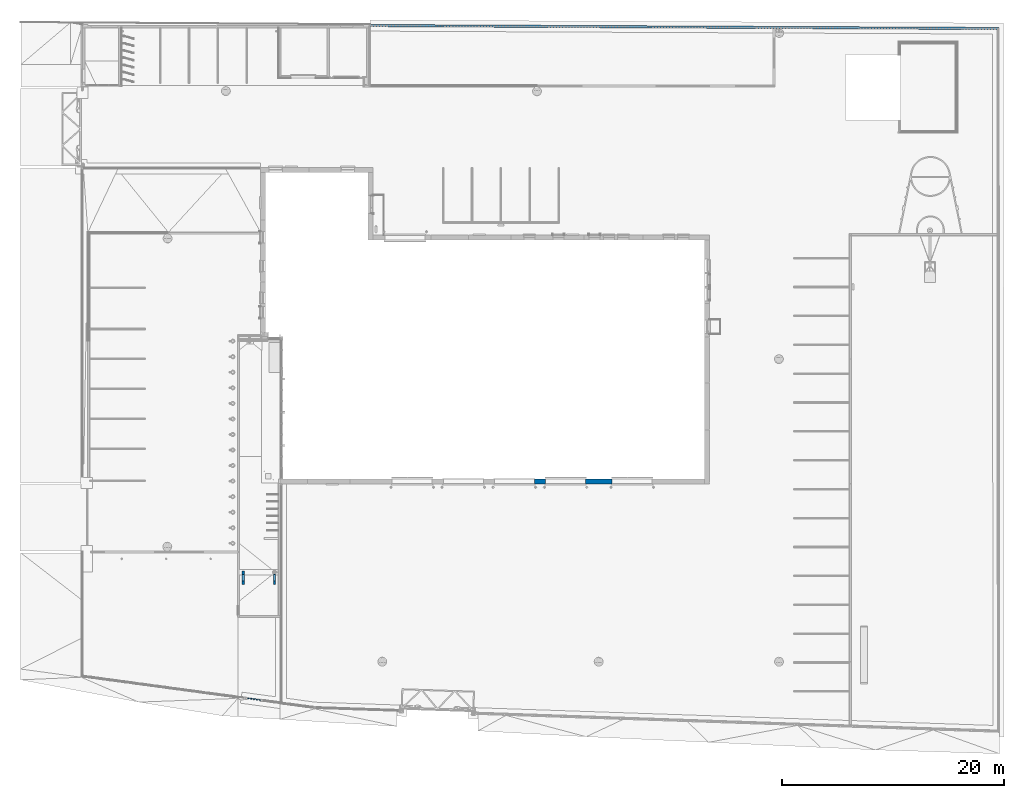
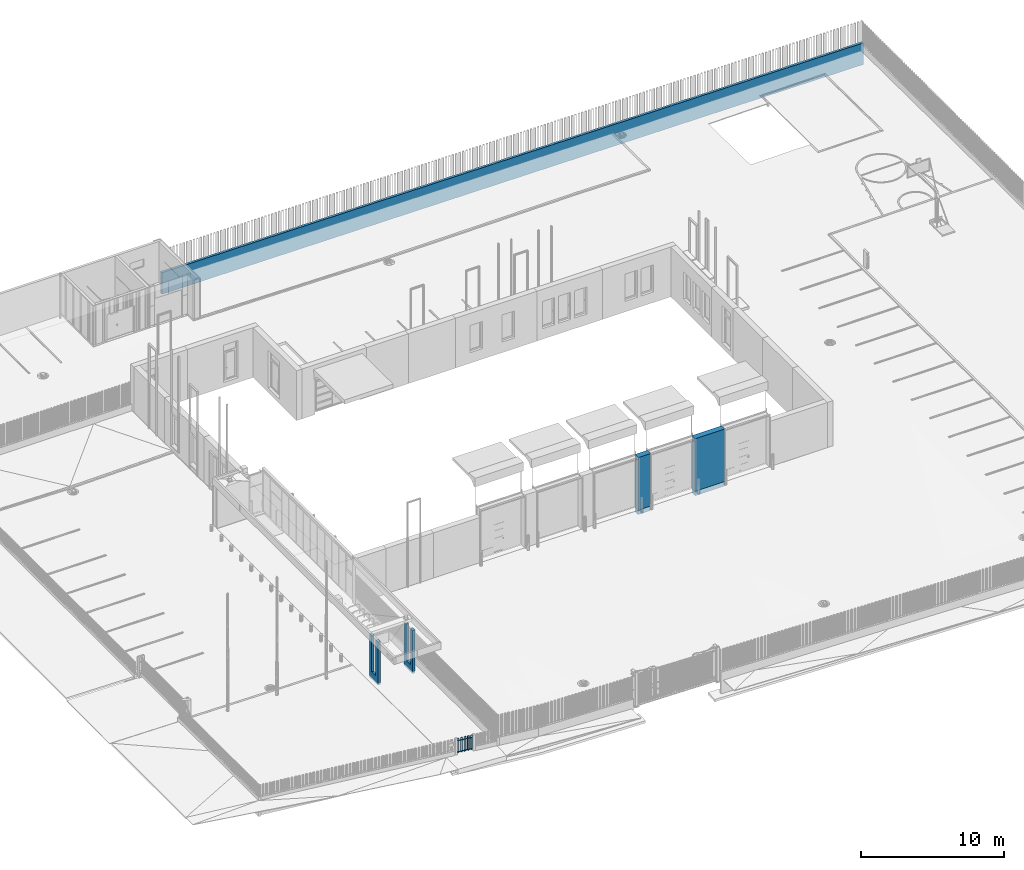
# One storey, part 39 of 77: 5 walls, 1 discrete accessory, 2 openings.
"""IFC2X3 building model written with IfcOpenShell, lengths in millimetres."""

import ifcopenshell
import ifcopenshell.guid

model = None  # the IFC model being written
_history = None  # IfcOwnerHistory: only IFC2X3 demands one
_inside = {}  # id of a spatial element -> (the spatial element, [elements in it])
_under = {}  # id of a project, library or spatial element -> (it, [spatial elements below it])
_declared = {}  # id of a project -> (the project, [libraries it declares])
_typed = {}  # id of a type object -> (the type object, [elements of that type])
_made_of = {}  # id of a material, layer set ... -> (it, [elements and type objects made of it])


def new_model(schema):
    """Start an empty IFC model of exactly this schema.

    Asked for "IFC4X3", IfcOpenShell would pick the latest addendum, in which some entities
    have other attributes; the version numbers below select the first issue.
    IFC2X3 requires an IfcOwnerHistory on every rooted entity: one is made here for all.
    """
    global model, _history
    if schema == "IFC4X3":
        model = ifcopenshell.file(schema_version=(4, 3, 0, 0))
    else:
        model = ifcopenshell.file(schema=schema)
    _inside.clear()
    _under.clear()
    _declared.clear()
    _typed.clear()
    _made_of.clear()
    _history = None
    if model.schema == "IFC2X3":
        org = make("IfcOrganization", Name="unknown")
        user = make(
            "IfcPersonAndOrganization",
            ThePerson=make("IfcPerson", FamilyName="unknown"),
            TheOrganization=org,
        )
        app = make(
            "IfcApplication",
            ApplicationDeveloper=org,
            Version="unknown",
            ApplicationFullName="unknown",
            ApplicationIdentifier="unknown",
        )
        _history = make(
            "IfcOwnerHistory",
            OwningUser=user,
            OwningApplication=app,
            ChangeAction="ADDED",
            CreationDate=0,
        )
    return model


def make(cls, **values):
    """One entity of the class cls with the attributes given. An attribute that is None is left unset."""
    return model.create_entity(
        cls, **{name: value for name, value in values.items() if value is not None}
    )


def entity(cls, *values):
    """Any entity or typed value of the class cls, its attributes in the order of the schema. None: left unset."""
    e = model.create_entity(cls)
    for i, value in enumerate(values):
        if value is not None:
            e[i] = value
    return e


def rooted(cls, **values):
    """An entity with a GlobalId (a new one), such as an element, a storey or a relation."""
    return make(cls, GlobalId=ifcopenshell.guid.new(), OwnerHistory=_history, **values)


def si_unit(unit_type, name, prefix=None):
    """IfcSIUnit, for example si_unit("LENGTHUNIT", "METRE", prefix="MILLI")."""
    return make("IfcSIUnit", UnitType=unit_type, Prefix=prefix, Name=name)


def converted_unit(unit_type, name, factor, base, dimensions=None, offset=None):
    """IfcConversionBasedUnit, such as the inch: factor (a typed value) times the base unit."""
    return make(
        "IfcConversionBasedUnit"
        if offset is None
        else "IfcConversionBasedUnitWithOffset",
        ConversionOffset=offset,
        Dimensions=None
        if dimensions is None
        else entity("IfcDimensionalExponents", *dimensions),
        UnitType=unit_type,
        Name=name,
        ConversionFactor=make(
            "IfcMeasureWithUnit", ValueComponent=factor, UnitComponent=base
        ),
    )


def derived_unit(unit_type, elements):
    """IfcDerivedUnit: a product of units, each with its exponent."""
    return make(
        "IfcDerivedUnit",
        Elements=[
            make("IfcDerivedUnitElement", Unit=unit, Exponent=power)
            for unit, power in elements
        ],
        UnitType=unit_type,
    )


def assignment(units):
    """IfcUnitAssignment: the units of a project."""
    return None if units is None else make("IfcUnitAssignment", Units=units)


def point(xyz):
    """IfcCartesianPoint."""
    return None if xyz is None else make("IfcCartesianPoint", Coordinates=xyz)


def direction(xyz):
    """IfcDirection."""
    return None if xyz is None else make("IfcDirection", DirectionRatios=xyz)


def frame(location, z_axis=None, x_axis=None):
    """IfcAxis2Placement3D, a coordinate frame: its origin and axes. An axis left out is left unset."""
    return make(
        "IfcAxis2Placement3D",
        Location=point(location),
        Axis=direction(z_axis),
        RefDirection=direction(x_axis),
    )


def frame_2d(location, x_axis=None):
    """IfcAxis2Placement2D, a coordinate frame in the plane: its origin and x axis."""
    return make(
        "IfcAxis2Placement2D", Location=point(location), RefDirection=direction(x_axis)
    )


def origin():
    """The frame at (0, 0, 0) with its axes left unset."""
    return frame((0.0, 0.0, 0.0))


def origin_2d_with_axis():
    """The frame at (0, 0) in the plane with the x axis (1, 0) written out."""
    return frame_2d((0.0, 0.0), x_axis=(1.0, 0.0))


def place(relative_to, where):
    """IfcLocalPlacement: puts the frame where relative to a parent placement (None: the world)."""
    return make(
        "IfcLocalPlacement", PlacementRelTo=relative_to, RelativePlacement=where
    )


def context(
    kind, dimensions, precision=None, world=None, true_north=None, identifier=None
):
    """IfcGeometricRepresentationContext, for example the 3D "Model" context."""
    return make(
        "IfcGeometricRepresentationContext",
        ContextIdentifier=identifier,
        ContextType=kind,
        CoordinateSpaceDimension=dimensions,
        Precision=precision,
        WorldCoordinateSystem=world,
        TrueNorth=true_north,
    )


def subcontext(parent, identifier, kind, view, scale=None):
    """IfcGeometricRepresentationSubContext, for example "Body" below "Model"."""
    return make(
        "IfcGeometricRepresentationSubContext",
        ContextIdentifier=identifier,
        ContextType=kind,
        ParentContext=parent,
        TargetScale=scale,
        TargetView=view,
    )


def project(units=None, contexts=None):
    """IfcProject with its units and contexts."""
    return rooted(
        "IfcProject",
        Name="project",
        RepresentationContexts=contexts,
        UnitsInContext=assignment(units),
    )


def spatial(cls, under=None, at=None, **own):
    """A site, building, storey or space (cls), placed at a placement, below another one or the project."""
    s = rooted(cls, ObjectPlacement=at, **own)
    if under is not None:
        _under.setdefault(under.id(), (under, []))[1].append(s)
    return s


def polyline(points):
    """IfcPolyline through the points."""
    return make("IfcPolyline", Points=[point(p) for p in points])


def profile(cls, at=None, kind="AREA", **sizes):
    """A parametric profile (cls). Its sizes go by their IFC names, for example OverallWidth=200.0."""
    return make(cls, ProfileType=kind, Position=at, **sizes)


def rectangle(**sizes):
    """IfcRectangleProfileDef."""
    return profile("IfcRectangleProfileDef", **sizes)


def outline(outer, holes=None, kind="AREA"):
    """IfcArbitraryClosedProfileDef: a profile drawn as a closed curve; with holes, ...WithVoids."""
    if holes is None:
        return make("IfcArbitraryClosedProfileDef", ProfileType=kind, OuterCurve=outer)
    return make(
        "IfcArbitraryProfileDefWithVoids",
        ProfileType=kind,
        OuterCurve=outer,
        InnerCurves=holes,
    )


def extrude(swept, where, along, depth):
    """IfcExtrudedAreaSolid: the profile swept, set in the frame where, extruded along a direction by depth."""
    return make(
        "IfcExtrudedAreaSolid",
        SweptArea=swept,
        Position=where,
        ExtrudedDirection=direction(along),
        Depth=depth,
    )


def faces_of(points, faces, orient=None, outer=None):
    """IfcFace entities. A face is a list of loops; a loop is a list of indices into points, from 0.

    orient and outer hold one flag for each loop. By default every Orientation is true, the
    first loop of a face is its IfcFaceOuterBound and the others are IfcFaceBound.
    """
    made = []
    for i, loops in enumerate(faces):
        bounds = []
        for j, loop in enumerate(loops):
            is_outer = j == 0 if outer is None else outer[i][j]
            bounds.append(
                make(
                    "IfcFaceOuterBound" if is_outer else "IfcFaceBound",
                    Bound=make("IfcPolyLoop", Polygon=[points[k] for k in loop]),
                    Orientation=True if orient is None else orient[i][j],
                )
            )
        made.append(make("IfcFace", Bounds=bounds))
    return made


def faceted_brep(points, faces, orient=None, outer=None, voids=None):
    """IfcFacetedBrep: a solid bounded by flat faces; with voids (closed shells), ...WithVoids."""
    shared = [point(p) for p in points]
    hull = make("IfcClosedShell", CfsFaces=faces_of(shared, faces, orient, outer))
    if voids is None:
        return make("IfcFacetedBrep", Outer=hull)
    return make(
        "IfcFacetedBrepWithVoids",
        Outer=hull,
        Voids=[
            make(cls, CfsFaces=faces_of(shared, fs, o, b)) for cls, fs, o, b in voids
        ],
    )


def shape(context_of_items, identifier, shape_type, items):
    """IfcShapeRepresentation: the items that make up one representation, for example the "Body"."""
    return make(
        "IfcShapeRepresentation",
        ContextOfItems=context_of_items,
        RepresentationIdentifier=identifier,
        RepresentationType=shape_type,
        Items=items,
    )


def source(mapping_origin, context_of_items, identifier, shape_type, items):
    """IfcRepresentationMap: a shape defined once, which mapped items show again and again."""
    return make(
        "IfcRepresentationMap",
        MappingOrigin=mapping_origin,
        MappedRepresentation=shape(context_of_items, identifier, shape_type, items),
    )


def transform(
    local_origin,
    x_axis=None,
    y_axis=None,
    z_axis=None,
    scale=None,
    scale2=None,
    scale3=None,
    uniform=True,
):
    """IfcCartesianTransformationOperator3D, or its non-uniform kind. x_axis, y_axis, z_axis: its Axis1, 2, 3."""
    if uniform:
        return make(
            "IfcCartesianTransformationOperator3D",
            Axis1=direction(x_axis),
            Axis2=direction(y_axis),
            LocalOrigin=point(local_origin),
            Scale=scale,
            Axis3=direction(z_axis),
        )
    return make(
        "IfcCartesianTransformationOperator3DnonUniform",
        Axis1=direction(x_axis),
        Axis2=direction(y_axis),
        LocalOrigin=point(local_origin),
        Scale=scale,
        Axis3=direction(z_axis),
        Scale2=scale2,
        Scale3=scale3,
    )


def mapped(mapping_source, mapping_target):
    """IfcMappedItem: shows the shape of a source again, moved by a transform."""
    return make(
        "IfcMappedItem", MappingSource=mapping_source, MappingTarget=mapping_target
    )


def material(Name=None, Category=None):
    """IfcMaterial."""
    return make("IfcMaterial", Name=Name, Category=Category)


def material_list(materials):
    """IfcMaterialList."""
    return make("IfcMaterialList", Materials=materials)


def layer(
    of_material, thickness, ventilated=None, Name=None, Category=None, Priority=None
):
    """IfcMaterialLayer: one layer of a wall or slab, of a material (None: an air gap)."""
    return make(
        "IfcMaterialLayer",
        Material=of_material,
        LayerThickness=thickness,
        IsVentilated=ventilated,
        Name=Name,
        Category=Category,
        Priority=Priority,
    )


def layer_set(layers, Name=None):
    """IfcMaterialLayerSet."""
    return make("IfcMaterialLayerSet", MaterialLayers=layers, LayerSetName=Name)


def layer_usage(for_layer_set, set_direction, sense, offset, extent=None):
    """IfcMaterialLayerSetUsage: how a layer set lies in its element."""
    return make(
        "IfcMaterialLayerSetUsage",
        ForLayerSet=for_layer_set,
        LayerSetDirection=set_direction,
        DirectionSense=sense,
        OffsetFromReferenceLine=offset,
        ReferenceExtent=extent,
    )


def made_of(thing, what):
    """Note that an element or type object is made of a material, layer set ...; save() writes the relation."""
    if what is not None:
        _made_of.setdefault(what.id(), (what, []))[1].append(thing)
    return thing


def type_object(cls, material=None, **own):
    """A type object (cls), such as IfcWallType, which elements share."""
    return made_of(rooted(cls, **own), material)


def type_shapes(of_type, sources):
    """Give a type object the sources (RepresentationMaps) that its elements show as mapped items."""
    of_type.RepresentationMaps = sources


def element(
    cls,
    number,
    at=None,
    inside=None,
    cuts=None,
    type_object=None,
    material=None,
    context=None,
    identifier="Body",
    shape_type=None,
    held_by="IfcProductDefinitionShape",
    body=None,
    shapes=None,
    **own,
):
    """One element of the class cls, such as IfcWall. Its Tag is "e" and its number.

    at: its placement. inside: the storey or other place that contains it. cuts: it is an
    opening in that element (IfcRelVoidsElement). A single representation is given by context,
    identifier, shape_type and body (its items); several are given by shapes. held_by: the class
    of the entity that holds the representations. save() writes the other relations.
    """
    e = rooted(cls, Tag="e%d" % number, ObjectPlacement=at, **own)
    if body is not None:
        shapes = [shape(context, identifier, shape_type, body)]
    if shapes is not None:
        e.Representation = make(held_by, Representations=shapes)
    if inside is not None:
        _inside.setdefault(inside.id(), (inside, []))[1].append(e)
    if cuts is not None:
        rooted(
            "IfcRelVoidsElement", RelatingBuildingElement=cuts, RelatedOpeningElement=e
        )
    if type_object is not None:
        _typed.setdefault(type_object.id(), (type_object, []))[1].append(e)
    return made_of(e, material)


def aggregate(whole, parts):
    """IfcRelAggregates: a whole, such as a stair, and the parts it consists of."""
    return rooted("IfcRelAggregates", RelatingObject=whole, RelatedObjects=parts)


def save(model, path):
    """Write the relations noted so far, then the file.

    IfcRelAggregates (storeys below a building ...), IfcRelContainedInSpatialStructure (elements
    in a storey), IfcRelDefinesByType, IfcRelAssociatesMaterial and IfcRelDeclares: one each for
    every whole, place, type object, material and project.
    """
    for whole, parts in _under.values():
        aggregate(whole, parts)
    for where, things in _inside.values():
        rooted(
            "IfcRelContainedInSpatialStructure",
            RelatedElements=things,
            RelatingStructure=where,
        )
    for kind, things in _typed.values():
        rooted("IfcRelDefinesByType", RelatedObjects=things, RelatingType=kind)
    for what, things in _made_of.values():
        rooted("IfcRelAssociatesMaterial", RelatedObjects=things, RelatingMaterial=what)
    for by, libraries in _declared.values():
        rooted("IfcRelDeclares", RelatingContext=by, RelatedDefinitions=libraries)
    model.write(path)


model = new_model("IFC2X3")

# Units and contexts
model_context = context("Model", 3, precision=0.01, world=origin(), true_north=direction((6.12303176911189e-17, 1.0)))
body_context = subcontext(model_context, "Body", "Model", "MODEL_VIEW")
ifc_project = project(units=[si_unit("LENGTHUNIT", "METRE", prefix="MILLI"), si_unit("AREAUNIT", "SQUARE_METRE"), si_unit("VOLUMEUNIT", "CUBIC_METRE"), converted_unit("PLANEANGLEUNIT", "DEGREE", entity("IfcRatioMeasure", 0.0174532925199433), si_unit("PLANEANGLEUNIT", "RADIAN"), dimensions=[0, 0, 0, 0, 0, 0, 0]), si_unit("MASSUNIT", "GRAM", prefix="KILO"), derived_unit("MASSDENSITYUNIT", [(si_unit("MASSUNIT", "GRAM", prefix="KILO"), 1), (si_unit("LENGTHUNIT", "METRE"), -3)]), si_unit("TIMEUNIT", "SECOND"), si_unit("FREQUENCYUNIT", "HERTZ"), si_unit("THERMODYNAMICTEMPERATUREUNIT", "DEGREE_CELSIUS"), derived_unit("THERMALTRANSMITTANCEUNIT", [(si_unit("MASSUNIT", "GRAM", prefix="KILO"), 1), (si_unit("THERMODYNAMICTEMPERATUREUNIT", "KELVIN"), -1), (si_unit("TIMEUNIT", "SECOND"), -3)]), derived_unit("VOLUMETRICFLOWRATEUNIT", [(si_unit("LENGTHUNIT", "METRE"), 3), (si_unit("TIMEUNIT", "SECOND"), -1)]), si_unit("ELECTRICCURRENTUNIT", "AMPERE"), si_unit("ELECTRICVOLTAGEUNIT", "VOLT"), si_unit("POWERUNIT", "WATT"), si_unit("FORCEUNIT", "NEWTON", prefix="KILO"), si_unit("ILLUMINANCEUNIT", "LUX"), si_unit("LUMINOUSFLUXUNIT", "LUMEN"), si_unit("LUMINOUSINTENSITYUNIT", "CANDELA"), derived_unit("USERDEFINED", [(si_unit("MASSUNIT", "GRAM", prefix="KILO"), -1), (si_unit("LENGTHUNIT", "METRE"), -2), (si_unit("TIMEUNIT", "SECOND"), 3), (si_unit("LUMINOUSFLUXUNIT", "LUMEN"), 1)]), derived_unit("LINEARVELOCITYUNIT", [(si_unit("LENGTHUNIT", "METRE"), 1), (si_unit("TIMEUNIT", "SECOND"), -1)]), si_unit("PRESSUREUNIT", "PASCAL"), derived_unit("USERDEFINED", [(si_unit("LENGTHUNIT", "METRE"), -2), (si_unit("MASSUNIT", "GRAM", prefix="KILO"), 1), (si_unit("TIMEUNIT", "SECOND"), -2)])], contexts=[model_context])

# Site, building, storey
site_placement = place(None, origin())
site = spatial("IfcSite", under=ifc_project, at=site_placement, Name="Default", CompositionType="ELEMENT")
building_placement = place(site_placement, origin())
building = spatial("IfcBuilding", under=site, at=building_placement, CompositionType="ELEMENT")
storey_placement = place(building_placement, origin())
storey = spatial("IfcBuildingStorey", under=building, at=storey_placement, Name="1. KORRUS", CompositionType="ELEMENT", Elevation=0.0)

# Walls
ifc_material_1 = material(Name="Default New Material(1)toed")
ifc_layer_1 = layer(ifc_material_1, 200.0)
ifc_layer_set_1 = layer_set([ifc_layer_1], Name="Basic Wall:Varikatuse raudbetoontoed")
wall_type_1 = type_object("IfcWallType", Name="Basic Wall:Varikatuse raudbetoontoed", PredefinedType="NOTDEFINED", material=ifc_layer_set_1)
wall_1_placement = place(storey_placement, frame((-2004.30734419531, -9485.47999851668, -300.0), z_axis=(0.0, 0.0, 1.0), x_axis=(0.0, 1.0, 0.0)))
element("IfcWall", 1, at=wall_1_placement, inside=storey, type_object=wall_type_1, material=ifc_material_1, Name="Basic Wall:Varikatuse raudbetoontoed", ObjectType="Basic Wall:Varikatuse raudbetoontoed", context=body_context, shape_type="Brep", body=[
    faceted_brep([(1200.0, -100.0, 0.0), (1200.0, -100.0, 3700.0), (900.0, -100.0, 3700.0), (900.0, -100.0, 600.0), (300.0, -100.0, 600.0), (300.0, -100.0, 3700.0), (0.0, -100.0, 3700.0), (0.0, -100.0, 0.0), (1200.0, 100.0, 0.0), (0.0, 100.0, 0.0), (0.0, 100.0, 3700.0), (300.0, 100.0, 3700.0), (300.0, 100.0, 600.0), (900.0, 100.0, 600.0), (900.0, 100.0, 3700.0), (1200.0, 100.0, 3700.0)], [[[0, 1, 2, 3, 4, 5, 6, 7]], [[8, 9, 10, 11, 12, 13, 14, 15]], [[1, 0, 8, 15]], [[2, 1, 15, 14]], [[3, 2, 14, 13]], [[4, 3, 13, 12]], [[6, 5, 11, 10]], [[0, 7, 9, 8]], [[5, 4, 12, 11]], [[7, 6, 10, 9]]]),
])
wall_2_placement = place(storey_placement, frame((795.692655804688, -9484.80559754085, -300.0), z_axis=(0.0, 0.0, 1.0), x_axis=(0.0, 1.0, 0.0)))
element("IfcWall", 2, at=wall_2_placement, inside=storey, type_object=wall_type_1, Name="Basic Wall:Varikatuse raudbetoontoed", ObjectType="Basic Wall:Varikatuse raudbetoontoed", context=body_context, shape_type="Brep", body=[
    faceted_brep([(1199.32559902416, -100.0, 0.0), (1199.32559902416, -100.0, 3700.0), (899.325599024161, -100.0, 3700.0), (899.325599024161, -100.0, 600.0), (300.0, -100.0, 600.0), (300.0, -100.0, 3700.0), (0.0, -100.0, 3700.0), (0.0, -100.0, 0.0), (1199.32559902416, 100.0, 0.0), (0.0, 100.0, 0.0), (0.0, 100.0, 3700.0), (300.0, 100.0, 3700.0), (300.0, 100.0, 600.0), (899.325599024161, 100.0, 600.0), (899.325599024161, 100.0, 3700.0), (1199.32559902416, 100.0, 3700.0)], [[[0, 1, 2, 3, 4, 5, 6, 7]], [[8, 9, 10, 11, 12, 13, 14, 15]], [[1, 0, 8, 15]], [[2, 1, 15, 14]], [[3, 2, 14, 13]], [[4, 3, 13, 12]], [[5, 4, 12, 11]], [[6, 5, 11, 10]], [[7, 6, 10, 9]], [[0, 7, 9, 8]]]),
])

# Wall, opening
ifc_material_2 = material(Name="RECKLI 1 173 THUR by Polantis 2016-tume")
ifc_material_3 = material(Name="Soojusisolatsioon EPS")
ifc_material_4 = material(Name="r/b")
ifc_material_list = material_list([ifc_material_2, ifc_material_3, ifc_material_4])
ifc_layer_2 = layer(ifc_material_2, 100.0)
ifc_layer_3 = layer(ifc_material_3, 200.0)
ifc_layer_4 = layer(ifc_material_4, 150.0)
ifc_layer_set_2 = layer_set([ifc_layer_2, ifc_layer_3, ifc_layer_4], Name="Basic Wall:VS-1-tume")
wall_type_2 = type_object("IfcWallType", Name="Basic Wall:VS-1-tume", PredefinedType="NOTDEFINED", material=ifc_layer_set_2)
wall_3_placement = place(storey_placement, frame((31200.0, -225.0, -400.0), z_axis=(0.0, 0.0, 1.0), x_axis=(-1.0, 0.0, 0.0)))
wall_3 = element("IfcWall", 3, at=wall_3_placement, inside=storey, type_object=wall_type_2, material=ifc_material_list, Name="Basic Wall:VS-1-tume", ObjectType="Basic Wall:VS-1-tume", context=body_context, shape_type="Brep", body=[
    faceted_brep([(0.0, -225.0, 0.0), (2400.0, -225.0, 0.0), (2400.0, -225.0, 4900.0), (1190.0, -225.0, 4900.0), (0.0, -225.0, 4900.0), (0.0, 225.0, 4900.0), (2400.0, 225.0, 4900.0), (2400.0, 225.0, 400.0), (0.0, 225.0, 400.0), (0.0, 205.0, 0.0), (2400.0, 205.0, 0.0), (2400.0, 125.0, 4900.0), (0.0, 125.0, 4900.0), (0.0, 205.0, 400.0), (2400.0, 205.0, 400.0)], [[[0, 1, 2, 3, 4]], [[5, 6, 7, 8]], [[1, 0, 9, 10]], [[2, 11, 12, 4, 3]], [[11, 6, 5, 12]], [[4, 12, 5, 8, 13, 9, 0]], [[14, 13, 8, 7]], [[13, 14, 10, 9]], [[11, 2, 1, 10, 14, 7, 6]]]),
])
opening_1_placement = place(wall_3_placement, frame((0.0, 225.0, 400.0)))
element("IfcOpeningElement", 4, at=opening_1_placement, cuts=wall_3, Name="Doors_Industrial_ASSA-ABLOY-OH1042F_With-Passdoor-Low-Threshold_bottom-glazed:GU01_Doors_Industrial_ASSA-ABLOY-OH1042F_With-Passdoor-Low-Threshold_bottom-glazed:1", ObjectType="Opening", context=body_context, shape_type="SweptSolid", body=[
    extrude(rectangle(XDim=4499.99999999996, YDim=3600.0, at=frame_2d((2249.99999999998, 1800.0), x_axis=(1.0, 0.0))), frame((0.0, 0.0, 0.0), z_axis=(0.0, -1.0, 0.0), x_axis=(0.0, 0.0, 1.0)), (0.0, 0.0, 1.0), 450.0),
])

wall_4_placement = place(storey_placement, frame((25200.0316629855, -225.0, -400.0), z_axis=(0.0, 0.0, 1.0), x_axis=(-1.0, 0.0, 0.0)))
wall_4 = element("IfcWall", 5, at=wall_4_placement, inside=storey, type_object=wall_type_2, Name="Basic Wall:VS-1-tume", ObjectType="Basic Wall:VS-1-tume", context=body_context, shape_type="Brep", body=[
    faceted_brep([(0.0, -225.0, 0.0), (1000.03166298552, -225.0, 0.0), (1000.03166298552, -225.0, 4900.0), (0.0316629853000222, -225.0, 4900.0), (0.0316629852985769, 225.0, 4900.0), (1000.03166298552, 225.0, 4900.0), (1000.03166298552, 225.0, 400.0), (0.00258473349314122, 225.0, 400.0), (0.0, 205.0, 0.0), (1000.03166298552, 205.0, 0.0), (0.0316629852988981, 125.0, 4900.0), (0.0, 225.0, 400.0), (0.0, 205.0, 400.0), (1000.03166298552, 125.0, 4900.0), (1000.03166298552, 205.0, 400.0)], [[[0, 1, 2, 3]], [[4, 5, 6, 7]], [[1, 0, 8, 9]], [[3, 10, 4, 11, 12, 8, 0]], [[2, 13, 10, 3]], [[13, 5, 4, 10]], [[14, 12, 7, 6]], [[12, 14, 9, 8]], [[13, 2, 1, 9, 14, 6, 5]]]),
])
opening_2_placement = place(wall_4_placement, frame((0.0316629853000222, 225.0, 400.0)))
element("IfcOpeningElement", 6, at=opening_2_placement, cuts=wall_4, Name="Doors_Industrial_ASSA-ABLOY-OH1042F_With-Passdoor-Low-Threshold_bottom-glazed:GU01_Doors_Industrial_ASSA-ABLOY-OH1042F_With-Passdoor-Low-Threshold_bottom-glazed:1", ObjectType="Opening", context=body_context, shape_type="SweptSolid", body=[
    extrude(rectangle(XDim=4499.99999999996, YDim=3600.0, at=frame_2d((2249.99999999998, 1800.0), x_axis=(1.0, 0.0))), frame((0.0, 0.0, 0.0), z_axis=(0.0, -1.0, 0.0), x_axis=(0.0, 0.0, 1.0)), (0.0, 0.0, 1.0), 450.0),
])

# Wall
ifc_material_5 = material(Name="aia r/b sokkel")
ifc_layer_5 = layer(ifc_material_5, 200.0)
ifc_layer_set_3 = layer_set([ifc_layer_5], Name="Basic Wall:Aed")
ifc_layer_usage = layer_usage(ifc_layer_set_3, "AXIS2", "NEGATIVE", 100.0)
wall_type_3 = type_object("IfcWallType", Name="Basic Wall:Aed", PredefinedType="STANDARD", material=ifc_layer_set_3)
wall_5_placement = place(storey_placement, frame((9400.55078283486, 40811.4844363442, -1300.0), z_axis=(0.0, 0.0, 1.0), x_axis=(0.999988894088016, -0.004712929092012, 0.0)))
element("IfcWallStandardCase", 7, at=wall_5_placement, inside=storey, type_object=wall_type_3, material=ifc_layer_usage, Name="Basic Wall:Aed", ObjectType="Basic Wall:Aed", context=body_context, shape_type="SweptSolid", body=[
    extrude(outline(polyline([(56636.2167932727, -100.0), (56635.163024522, 100.0), (0.0, 100.0), (0.0, -100.0), (56436.2140172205, -100.0), (56636.2167932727, -100.0)])), origin(), (0.0, 0.0, 1.0), 1850.0),
])

# Discrete accessory
ifc_material_6 = material(Name="Default New Material(4)")
discrete_accessory_type = type_object("IfcDiscreteAccessoryType", Name="JV3", material=ifc_material_6)
shared_shape = source(origin(), body_context, "Body", "SweptSolid", [
    extrude(outline(polyline([(168.101625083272, -571.498084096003), (247.914958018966, -571.498084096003), (-172.769818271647, 584.323839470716), (-243.24676483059, 558.672328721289), (168.101625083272, -571.498084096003)])), frame((560.0, -88.3000000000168, 608.175558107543), z_axis=(1.0, 0.0, 0.0), x_axis=(0.0, -0.939692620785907, 0.342020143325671)), (0.0, 0.0, 1.0), 19.9999999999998),
    extrude(outline(polyline([(168.101625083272, -571.498084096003), (247.914958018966, -571.498084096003), (-172.769818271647, 584.323839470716), (-243.24676483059, 558.67232872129), (168.101625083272, -571.498084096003)])), frame((445.0, -88.3000000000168, 608.175558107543), z_axis=(1.0, 0.0, 0.0), x_axis=(0.0, -0.939692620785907, 0.342020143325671)), (0.0, 0.0, 1.0), 19.9999999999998),
    extrude(outline(polyline([(168.101625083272, -571.498084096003), (247.914958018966, -571.498084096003), (-172.769818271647, 584.323839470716), (-243.24676483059, 558.672328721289), (168.101625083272, -571.498084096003)])), frame((307.500000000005, -88.3000000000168, 608.175558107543), z_axis=(1.0, 0.0, 0.0), x_axis=(0.0, -0.939692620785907, 0.342020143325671)), (0.0, 0.0, 1.0), 19.9999999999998),
    extrude(outline(polyline([(168.101625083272, -571.498084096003), (247.914958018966, -571.498084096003), (-172.769818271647, 584.323839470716), (-243.24676483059, 558.67232872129), (168.101625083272, -571.498084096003)])), frame((192.500000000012, -88.3000000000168, 608.175558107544), z_axis=(1.0, 0.0, 0.0), x_axis=(0.0, -0.939692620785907, 0.342020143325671)), (0.0, 0.0, 1.0), 19.9999999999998),
    extrude(outline(polyline([(168.101625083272, -571.498084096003), (247.914958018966, -571.498084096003), (-172.769818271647, 584.323839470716), (-243.24676483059, 558.672328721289), (168.101625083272, -571.498084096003)])), frame((50.0, -88.3000000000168, 608.175558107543), z_axis=(1.0, 0.0, 0.0), x_axis=(0.0, -0.939692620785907, 0.342020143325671)), (0.0, 0.0, 1.0), 19.9999999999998),
    extrude(outline(polyline([(168.101625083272, -571.498084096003), (247.914958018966, -571.498084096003), (-172.769818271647, 584.323839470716), (-243.24676483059, 558.67232872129), (168.101625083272, -571.498084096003)])), frame((-65.0, -88.3000000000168, 608.175558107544), z_axis=(1.0, 0.0, 0.0), x_axis=(0.0, -0.939692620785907, 0.342020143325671)), (0.0, 0.0, 1.0), 19.9999999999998),
    extrude(outline(polyline([(168.101625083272, -571.498084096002), (247.914958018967, -571.498084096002), (-172.769818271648, 584.323839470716), (-243.246764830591, 558.672328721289), (168.101625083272, -571.498084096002)])), frame((-207.499999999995, -88.3000000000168, 608.175558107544), z_axis=(1.0, 0.0, 0.0), x_axis=(0.0, -0.939692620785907, 0.342020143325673)), (0.0, 0.0, 1.0), 19.9999999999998),
    extrude(outline(polyline([(168.101625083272, -571.498084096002), (247.914958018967, -571.498084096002), (-172.769818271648, 584.323839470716), (-243.246764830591, 558.672328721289), (168.101625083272, -571.498084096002)])), frame((-322.499999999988, -88.3000000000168, 608.175558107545), z_axis=(1.0, 0.0, 0.0), x_axis=(0.0, -0.939692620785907, 0.342020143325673)), (0.0, 0.0, 1.0), 19.9999999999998),
    extrude(outline(polyline([(-36.486465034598, -9.39692620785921), (43.3268679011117, -9.3969262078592), (36.486465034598, 9.39692620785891), (-43.3268679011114, 9.39692620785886), (-36.486465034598, -9.39692620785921)])), frame((-322.499999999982, -88.3000000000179, 1226.35111621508), z_axis=(1.0, 0.0, 0.0), x_axis=(0.0, -0.939692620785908, 0.34202014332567)), (0.0, 0.0, 1.0), 134.999999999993),
    extrude(outline(polyline([(168.101625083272, -571.498084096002), (247.914958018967, -571.498084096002), (-172.769818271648, 584.323839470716), (-243.246764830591, 558.672328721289), (168.101625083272, -571.498084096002)])), frame((-465.0, -88.3000000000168, 608.175558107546), z_axis=(1.0, 0.0, 0.0), x_axis=(0.0, -0.939692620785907, 0.342020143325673)), (0.0, 0.0, 1.0), 19.9999999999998),
    extrude(outline(polyline([(168.101625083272, -571.498084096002), (247.914958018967, -571.498084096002), (-172.769818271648, 584.323839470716), (-243.246764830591, 558.672328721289), (168.101625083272, -571.498084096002)])), frame((-580.0, -88.3000000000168, 608.175558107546), z_axis=(1.0, 0.0, 0.0), x_axis=(0.0, -0.939692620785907, 0.342020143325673)), (0.0, 0.0, 1.0), 19.9999999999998),
    extrude(outline(polyline([(-36.4864650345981, -9.39692620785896), (43.3268679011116, -9.39692620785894), (36.4864650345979, 9.39692620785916), (-43.3268679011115, 9.39692620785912), (-36.4864650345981, -9.39692620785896)])), frame((-580.0, -88.3000000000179, 1226.35111621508), z_axis=(1.0, 0.0, 0.0), x_axis=(0.0, -0.939692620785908, 0.34202014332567)), (0.0, 0.0, 1.0), 135.000000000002),
    extrude(outline(polyline([(-36.4864650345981, -9.39692620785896), (43.3268679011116, -9.39692620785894), (36.4864650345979, 9.39692620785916), (-43.3268679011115, 9.39692620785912), (-36.4864650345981, -9.39692620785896)])), frame((445.0, -88.3000000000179, 1226.35111621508), z_axis=(1.0, 0.0, 0.0), x_axis=(0.0, -0.939692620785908, 0.34202014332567)), (0.0, 0.0, 1.0), 134.99999999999),
    extrude(rectangle(XDim=75.0, YDim=95.0000000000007, at=frame_2d((0.0, 3.5527136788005e-14), x_axis=(1.0, 0.0))), frame((512.500000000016, -88.3000000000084, 0.0), z_axis=(0.0, 0.0, 1.0), x_axis=(0.0, 1.0, 0.0)), (0.0, 0.0, 1.0), 19.9999999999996),
    extrude(outline(polyline([(-36.4864650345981, -9.39692620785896), (43.3268679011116, -9.39692620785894), (36.4864650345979, 9.39692620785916), (-43.3268679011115, 9.39692620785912), (-36.4864650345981, -9.39692620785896)])), frame((192.500000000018, -88.3000000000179, 1226.35111621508), z_axis=(1.0, 0.0, 0.0), x_axis=(0.0, -0.939692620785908, 0.34202014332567)), (0.0, 0.0, 1.0), 134.999999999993),
    extrude(rectangle(XDim=75.0, YDim=94.999999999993, at=frame_2d((0.0, 3.5527136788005e-14), x_axis=(1.0, 0.0))), frame((260.0, -88.3000000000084, 0.0), z_axis=(0.0, 0.0, 1.0), x_axis=(0.0, 1.0, 0.0)), (0.0, 0.0, 1.0), 19.9999999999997),
    extrude(outline(polyline([(-36.4864650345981, -9.39692620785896), (43.3268679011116, -9.39692620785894), (36.4864650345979, 9.39692620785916), (-43.3268679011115, 9.39692620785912), (-36.4864650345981, -9.39692620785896)])), frame((-65.0, -88.3000000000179, 1226.35111621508), z_axis=(1.0, 0.0, 0.0), x_axis=(0.0, -0.939692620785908, 0.34202014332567)), (0.0, 0.0, 1.0), 134.999999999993),
    extrude(rectangle(XDim=75.0, YDim=94.9999999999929, at=origin_2d_with_axis()), frame((2.50000000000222, -88.3000000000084, 0.0), z_axis=(0.0, 0.0, 1.0), x_axis=(0.0, 1.0, 0.0)), (0.0, 0.0, 1.0), 19.9999999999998),
    extrude(rectangle(XDim=75.0, YDim=94.999999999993, at=frame_2d((0.0, -3.5527136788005e-14), x_axis=(1.0, 0.0))), frame((-255.0, -88.3000000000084, 0.0), z_axis=(0.0, 0.0, 1.0), x_axis=(0.0, 1.0, 0.0)), (0.0, 0.0, 1.0), 20.000000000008),
    extrude(rectangle(XDim=75.0, YDim=94.999999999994, at=frame_2d((0.0, -3.19744231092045e-14), x_axis=(1.0, 0.0))), frame((-512.499999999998, -88.3000000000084, 0.0), z_axis=(0.0, 0.0, 1.0), x_axis=(0.0, 1.0, 0.0)), (0.0, 0.0, 1.0), 20.0000000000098),
    extrude(outline(polyline([(-580.0, -500.100000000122), (580.0, -500.100000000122), (580.0, 500.100000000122), (-580.0, 500.100000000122), (-580.0, -500.100000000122)]), holes=[polyline([(-529.20000000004, -449.300000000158), (-529.20000000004, 449.300000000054), (529.199999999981, 449.300000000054), (529.199999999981, -449.300000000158), (-529.20000000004, -449.300000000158)])]), frame((0.0, -50.8000000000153, 500.100000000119), z_axis=(0.0, 1.0, 0.0), x_axis=(1.0, 0.0, 0.0)), (0.0, 0.0, 1.0), 50.8),
])
type_shapes(discrete_accessory_type, [shared_shape])
discrete_accessory_placement = place(storey_placement, frame((-1033.91890078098, -19768.5502941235, 0.0), z_axis=(0.0, 0.0, 1.0), x_axis=(0.9909905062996, -0.133932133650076, 0.0)))
element("IfcDiscreteAccessory", 8, at=discrete_accessory_placement, inside=storey, type_object=discrete_accessory_type, material=ifc_material_6, Name="jalgvarav-kaldu:JV3", ObjectType="JV3", context=body_context, shape_type="MappedRepresentation", body=[
    mapped(shared_shape, transform((0.0, 0.0, 0.0), scale=1.0)),
])

save(model, "model.ifc")
